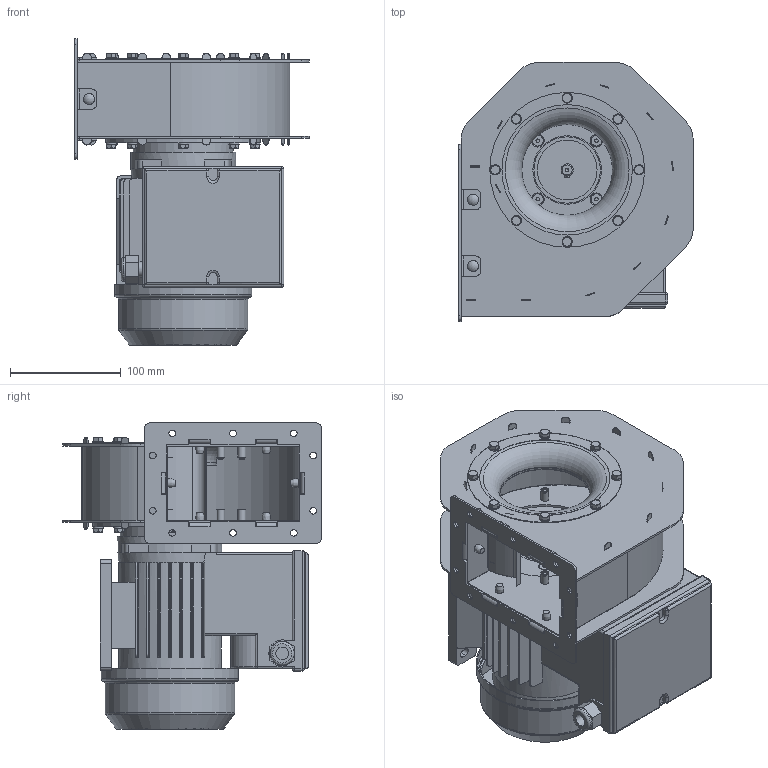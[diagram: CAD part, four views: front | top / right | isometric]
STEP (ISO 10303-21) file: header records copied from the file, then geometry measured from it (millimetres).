
FILE_DESCRIPTION(/* description */ (''),/* implementation_level */ '2;1');
FILE_NAME(/* name */ 'T:\Drawings\Standard Drawings\DATA Web Downloads\3D FILES\HFM-108-42 _ 3D12-0195.stp',/* time_stamp */ '2015-02-18T13:45:12+00:00',/* author */ ('mtinkler'),/* organization */ (''),/* preprocessor_version */ 'ST-DEVELOPER v15.6',/* originating_system */ 'Autodesk Inventor 2015',/* authorisation */ '');
FILE_SCHEMA (('AUTOMOTIVE_DESIGN { 1 0 10303 214 3 1 1 }'));
Length unit declared in the file: centimetre
Products named in the file (1): 3D12-0195
Bounding box: 212 x 234.2 x 277 mm (x, y, z)
Volume: 2413313 mm3; surface area: 537099.3 mm2
Topology: 67 solids, 67 shells, 1640 faces, 4144 edges, 2666 vertices
Faces by surface type: plane 1003, cylinder 409, cone 150, torus 39, bspline 22, sphere 17
Full cylindrical faces by diameter (mm): 3.242 x1, 4.134 x4, 4.8 x6, 5 x48, 5.5 x20, 6 x10, 7 x16, 7.1 x16, 9 x1, 9.75 x4, 11 x1, 11.5 x1, 14 x1, 21.5 x1, 54 x1, 60 x1, 62 x1, 82 x1, 83.6 x1, 92.79 x1, 95 x1, 112 x2, 115 x1, 117 x1, 122 x1, 124 x1, 140 x2
Entity records: 50479 total; most frequent: CARTESIAN_POINT 9887, DIRECTION 7912, ORIENTED_EDGE 7656, EDGE_CURVE 3828, AXIS2_PLACEMENT_3D 2783, VERTEX_POINT 2594, LINE 2346, VECTOR 2346
